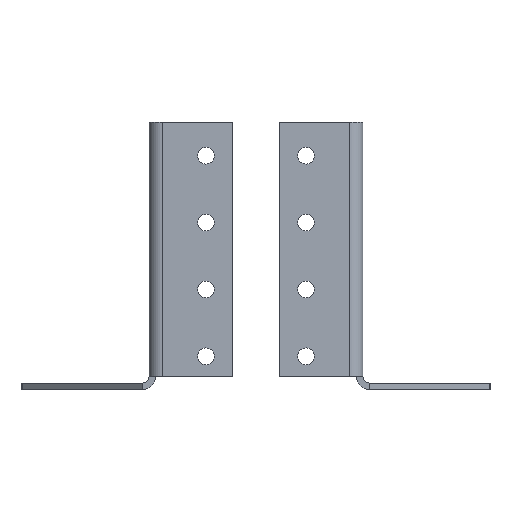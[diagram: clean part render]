
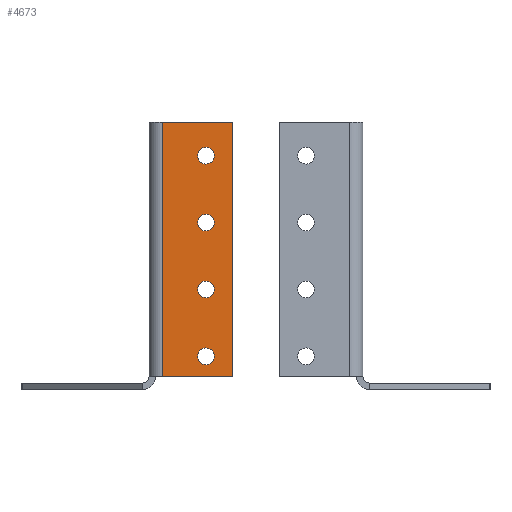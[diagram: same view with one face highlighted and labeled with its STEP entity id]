
A CAD part, front view. The second image highlights one B-rep face of the part: STEP entity #4673.
In plain terms, the highlighted planar face has unit normal (0, -1, 0).
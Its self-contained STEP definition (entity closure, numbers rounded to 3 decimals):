
#38 = VECTOR ( 'NONE', #3477, 1000. ) ;
#110 = VERTEX_POINT ( 'NONE', #4102 ) ;
#151 = VECTOR ( 'NONE', #326, 1000. ) ;
#178 = EDGE_CURVE ( 'NONE', #2698, #917, #1620, .T. ) ;
#181 = DIRECTION ( 'NONE',  ( 0., 1., 0. ) ) ;
#201 = CARTESIAN_POINT ( 'NONE',  ( 15., -2., -67.5 ) ) ;
#274 = DIRECTION ( 'NONE',  ( 0., 0., -1. ) ) ;
#326 = DIRECTION ( 'NONE',  ( 0., 0., -1. ) ) ;
#337 = EDGE_CURVE ( 'NONE', #917, #2698, #842, .T. ) ;
#404 = EDGE_LOOP ( 'NONE', ( #3078, #3426, #477, #3331 ) ) ;
#418 = DIRECTION ( 'NONE',  ( 0., 1., 0. ) ) ;
#476 = CIRCLE ( 'NONE', #3668, 2.5 ) ;
#477 = ORIENTED_EDGE ( 'NONE', *, *, #761, .F. ) ;
#484 = EDGE_CURVE ( 'NONE', #4018, #2463, #1724, .T. ) ;
#567 = ORIENTED_EDGE ( 'NONE', *, *, #1876, .T. ) ;
#568 = DIRECTION ( 'NONE',  ( 0., 1., 0. ) ) ;
#625 = CARTESIAN_POINT ( 'NONE',  ( 15., -2., -72.5 ) ) ;
#654 = EDGE_LOOP ( 'NONE', ( #2931, #2661 ) ) ;
#712 = VERTEX_POINT ( 'NONE', #2771 ) ;
#719 = DIRECTION ( 'NONE',  ( 0., 1., 0. ) ) ;
#761 = EDGE_CURVE ( 'NONE', #3227, #110, #1245, .T. ) ;
#835 = EDGE_LOOP ( 'NONE', ( #567, #1936 ) ) ;
#842 = CIRCLE ( 'NONE', #2634, 2.5 ) ;
#901 = ORIENTED_EDGE ( 'NONE', *, *, #2766, .T. ) ;
#917 = VERTEX_POINT ( 'NONE', #3306 ) ;
#1044 = FACE_BOUND ( 'NONE', #4433, .T. ) ;
#1060 = CARTESIAN_POINT ( 'NONE',  ( 15., -2., -32.5 ) ) ;
#1100 = DIRECTION ( 'NONE',  ( 0., 0., -1. ) ) ;
#1147 = AXIS2_PLACEMENT_3D ( 'NONE', #4932, #2269, #3051 ) ;
#1187 = EDGE_CURVE ( 'NONE', #2537, #2053, #476, .T. ) ;
#1245 = LINE ( 'NONE', #3503, #38 ) ;
#1285 = EDGE_CURVE ( 'NONE', #2463, #3227, #2144, .T. ) ;
#1323 = CARTESIAN_POINT ( 'NONE',  ( 15., -2., -7.5 ) ) ;
#1343 = CIRCLE ( 'NONE', #2955, 2.5 ) ;
#1421 = CARTESIAN_POINT ( 'NONE',  ( 15., -2., -30. ) ) ;
#1620 = CIRCLE ( 'NONE', #3556, 2.5 ) ;
#1676 = AXIS2_PLACEMENT_3D ( 'NONE', #2605, #2961, #274 ) ;
#1724 = LINE ( 'NONE', #3780, #4578 ) ;
#1782 = AXIS2_PLACEMENT_3D ( 'NONE', #2910, #181, #2136 ) ;
#1852 = AXIS2_PLACEMENT_3D ( 'NONE', #4537, #3377, #4499 ) ;
#1869 = CARTESIAN_POINT ( 'NONE',  ( 23., -2., -76. ) ) ;
#1876 = EDGE_CURVE ( 'NONE', #3160, #4264, #3073, .T. ) ;
#1936 = ORIENTED_EDGE ( 'NONE', *, *, #4381, .T. ) ;
#1941 = CIRCLE ( 'NONE', #1147, 2.5 ) ;
#2004 = EDGE_CURVE ( 'NONE', #712, #2722, #1343, .T. ) ;
#2053 = VERTEX_POINT ( 'NONE', #3562 ) ;
#2091 = EDGE_LOOP ( 'NONE', ( #2866, #901 ) ) ;
#2136 = DIRECTION ( 'NONE',  ( 0., 0., -1. ) ) ;
#2144 = LINE ( 'NONE', #3226, #3043 ) ;
#2174 = DIRECTION ( 'NONE',  ( 0., 0., -1. ) ) ;
#2269 = DIRECTION ( 'NONE',  ( 0., 1., 0. ) ) ;
#2298 = DIRECTION ( 'NONE',  ( 1., 0., 0. ) ) ;
#2463 = VERTEX_POINT ( 'NONE', #3666 ) ;
#2534 = FACE_BOUND ( 'NONE', #2091, .T. ) ;
#2537 = VERTEX_POINT ( 'NONE', #1323 ) ;
#2605 = CARTESIAN_POINT ( 'NONE',  ( 15., -2., -70. ) ) ;
#2634 = AXIS2_PLACEMENT_3D ( 'NONE', #4172, #719, #1100 ) ;
#2661 = ORIENTED_EDGE ( 'NONE', *, *, #178, .T. ) ;
#2698 = VERTEX_POINT ( 'NONE', #1060 ) ;
#2722 = VERTEX_POINT ( 'NONE', #3792 ) ;
#2766 = EDGE_CURVE ( 'NONE', #2053, #2537, #1941, .T. ) ;
#2771 = CARTESIAN_POINT ( 'NONE',  ( 15., -2., -47.5 ) ) ;
#2818 = DIRECTION ( 'NONE',  ( 0., 0., -1. ) ) ;
#2852 = CARTESIAN_POINT ( 'NONE',  ( 15., -2., -50. ) ) ;
#2866 = ORIENTED_EDGE ( 'NONE', *, *, #1187, .T. ) ;
#2910 = CARTESIAN_POINT ( 'NONE',  ( 15., -2., -50. ) ) ;
#2931 = ORIENTED_EDGE ( 'NONE', *, *, #337, .T. ) ;
#2955 = AXIS2_PLACEMENT_3D ( 'NONE', #2852, #568, #3234 ) ;
#2961 = DIRECTION ( 'NONE',  ( 0., 1., 0. ) ) ;
#3043 = VECTOR ( 'NONE', #4723, 1000. ) ;
#3051 = DIRECTION ( 'NONE',  ( 0., 0., -1. ) ) ;
#3073 = CIRCLE ( 'NONE', #1676, 2.5 ) ;
#3078 = ORIENTED_EDGE ( 'NONE', *, *, #484, .F. ) ;
#3094 = AXIS2_PLACEMENT_3D ( 'NONE', #4373, #4341, #2818 ) ;
#3095 = DIRECTION ( 'NONE',  ( 0., 0., -1. ) ) ;
#3160 = VERTEX_POINT ( 'NONE', #201 ) ;
#3202 = CIRCLE ( 'NONE', #1852, 2.5 ) ;
#3226 = CARTESIAN_POINT ( 'NONE',  ( 23., -2., 0. ) ) ;
#3227 = VERTEX_POINT ( 'NONE', #1869 ) ;
#3234 = DIRECTION ( 'NONE',  ( 0., 0., -1. ) ) ;
#3267 = DIRECTION ( 'NONE',  ( 0., 1., 0. ) ) ;
#3306 = CARTESIAN_POINT ( 'NONE',  ( 15., -2., -27.5 ) ) ;
#3331 = ORIENTED_EDGE ( 'NONE', *, *, #1285, .F. ) ;
#3377 = DIRECTION ( 'NONE',  ( 0., 1., 0. ) ) ;
#3426 = ORIENTED_EDGE ( 'NONE', *, *, #3933, .T. ) ;
#3477 = DIRECTION ( 'NONE',  ( -1., 0., 0. ) ) ;
#3503 = CARTESIAN_POINT ( 'NONE',  ( 0., -2., -76. ) ) ;
#3513 = CARTESIAN_POINT ( 'NONE',  ( 15., -2., -10. ) ) ;
#3556 = AXIS2_PLACEMENT_3D ( 'NONE', #1421, #3267, #2174 ) ;
#3562 = CARTESIAN_POINT ( 'NONE',  ( 15., -2., -12.5 ) ) ;
#3613 = EDGE_CURVE ( 'NONE', #2722, #712, #4399, .T. ) ;
#3635 = PLANE ( 'NONE',  #3094 ) ;
#3666 = CARTESIAN_POINT ( 'NONE',  ( 23., -2., 0. ) ) ;
#3668 = AXIS2_PLACEMENT_3D ( 'NONE', #3513, #418, #3095 ) ;
#3769 = CARTESIAN_POINT ( 'NONE',  ( 2., -2., 0. ) ) ;
#3780 = CARTESIAN_POINT ( 'NONE',  ( 0., -2., 0. ) ) ;
#3792 = CARTESIAN_POINT ( 'NONE',  ( 15., -2., -52.5 ) ) ;
#3930 = LINE ( 'NONE', #3769, #151 ) ;
#3933 = EDGE_CURVE ( 'NONE', #4018, #110, #3930, .T. ) ;
#4018 = VERTEX_POINT ( 'NONE', #4703 ) ;
#4082 = FACE_BOUND ( 'NONE', #654, .T. ) ;
#4102 = CARTESIAN_POINT ( 'NONE',  ( 2., -2., -76. ) ) ;
#4172 = CARTESIAN_POINT ( 'NONE',  ( 15., -2., -30. ) ) ;
#4207 = FACE_OUTER_BOUND ( 'NONE', #404, .T. ) ;
#4264 = VERTEX_POINT ( 'NONE', #625 ) ;
#4341 = DIRECTION ( 'NONE',  ( 0., -1., 0. ) ) ;
#4373 = CARTESIAN_POINT ( 'NONE',  ( 0., -2., 0. ) ) ;
#4381 = EDGE_CURVE ( 'NONE', #4264, #3160, #3202, .T. ) ;
#4399 = CIRCLE ( 'NONE', #1782, 2.5 ) ;
#4433 = EDGE_LOOP ( 'NONE', ( #4823, #4885 ) ) ;
#4499 = DIRECTION ( 'NONE',  ( 0., 0., -1. ) ) ;
#4537 = CARTESIAN_POINT ( 'NONE',  ( 15., -2., -70. ) ) ;
#4578 = VECTOR ( 'NONE', #2298, 1000. ) ;
#4673 = ADVANCED_FACE ( 'NONE', ( #4891, #1044, #4082, #2534, #4207 ), #3635, .T. ) ;
#4703 = CARTESIAN_POINT ( 'NONE',  ( 2., -2., 0. ) ) ;
#4723 = DIRECTION ( 'NONE',  ( 0., 0., -1. ) ) ;
#4823 = ORIENTED_EDGE ( 'NONE', *, *, #2004, .T. ) ;
#4885 = ORIENTED_EDGE ( 'NONE', *, *, #3613, .T. ) ;
#4891 = FACE_BOUND ( 'NONE', #835, .T. ) ;
#4932 = CARTESIAN_POINT ( 'NONE',  ( 15., -2., -10. ) ) ;
